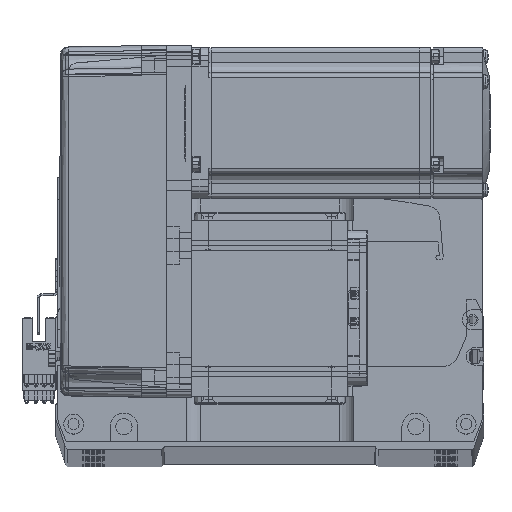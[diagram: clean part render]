
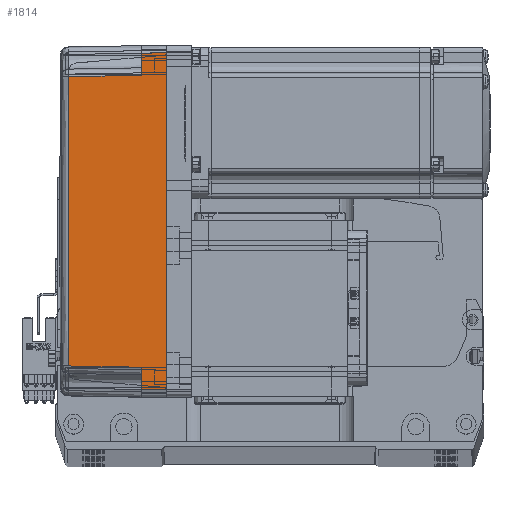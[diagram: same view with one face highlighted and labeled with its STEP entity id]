
A CAD part, top view. The second image highlights one B-rep face of the part: STEP entity #1814.
In plain terms, the highlighted planar face has unit normal (-0.018, 0, 1) as drawn and (0, 1, 0.017) by its records, which use the part's own axes.
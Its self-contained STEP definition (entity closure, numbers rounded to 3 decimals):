
#188 = EDGE_CURVE ( 'NONE', #10335, #44678, #39410, .T. ) ;
#1607 = LINE ( 'NONE', #45293, #15141 ) ;
#1814 = ADVANCED_FACE ( 'NONE', ( #69866 ), #28240, .T. ) ;
#3928 = CARTESIAN_POINT ( 'NONE',  ( -19.165, 35.316, 39.181 ) ) ;
#7227 = ORIENTED_EDGE ( 'NONE', *, *, #19741, .T. ) ;
#8753 = CARTESIAN_POINT ( 'NONE',  ( -57.495, 35.32, 38.985 ) ) ;
#9487 = VERTEX_POINT ( 'NONE', #20927 ) ;
#10335 = VERTEX_POINT ( 'NONE', #39844 ) ;
#14997 = VERTEX_POINT ( 'NONE', #56291 ) ;
#15141 = VECTOR ( 'NONE', #45546, 1000. ) ;
#16450 = LINE ( 'NONE', #38453, #37150 ) ;
#16978 = CARTESIAN_POINT ( 'NONE',  ( 70., 36., 0. ) ) ;
#17507 = DIRECTION ( 'NONE',  ( 0.017, -0.017, 1. ) ) ;
#18049 = CARTESIAN_POINT ( 'NONE',  ( -66.826, 35.825, 10. ) ) ;
#18368 = VECTOR ( 'NONE', #56971, 1000. ) ;
#19364 = EDGE_CURVE ( 'NONE', #73491, #9487, #42670, .T. ) ;
#19741 = EDGE_CURVE ( 'NONE', #55953, #14997, #61963, .T. ) ;
#20433 = EDGE_CURVE ( 'NONE', #48076, #27278, #56063, .T. ) ;
#20663 = CARTESIAN_POINT ( 'NONE',  ( 57.495, 35.32, 38.985 ) ) ;
#20927 = CARTESIAN_POINT ( 'NONE',  ( -58., 35.825, 10. ) ) ;
#21556 = ORIENTED_EDGE ( 'NONE', *, *, #188, .T. ) ;
#22585 = CARTESIAN_POINT ( 'NONE',  ( 66.826, 35.825, 10. ) ) ;
#22630 = DIRECTION ( 'NONE',  ( 1., 0., 0. ) ) ;
#24776 = VECTOR ( 'NONE', #45142, 1000. ) ;
#26079 = EDGE_CURVE ( 'NONE', #14997, #10335, #16450, .T. ) ;
#26132 = CARTESIAN_POINT ( 'NONE',  ( 19.165, 35.316, 39.181 ) ) ;
#26601 = LINE ( 'NONE', #27954, #24776 ) ;
#27278 = VERTEX_POINT ( 'NONE', #70036 ) ;
#27954 = CARTESIAN_POINT ( 'NONE',  ( 67.001, 36.001, -0.052 ) ) ;
#28240 = PLANE ( 'NONE',  #31507 ) ;
#31507 = AXIS2_PLACEMENT_3D ( 'NONE', #16978, #57275, #68892 ) ;
#32727 = EDGE_CURVE ( 'NONE', #27278, #44678, #26601, .T. ) ;
#34770 = ORIENTED_EDGE ( 'NONE', *, *, #20433, .F. ) ;
#37150 = VECTOR ( 'NONE', #73035, 1000. ) ;
#38289 = EDGE_LOOP ( 'NONE', ( #44382, #38369, #65140, #7227, #68262, #21556, #45176, #34770 ) ) ;
#38369 = ORIENTED_EDGE ( 'NONE', *, *, #19364, .T. ) ;
#38453 = CARTESIAN_POINT ( 'NONE',  ( 57.495, 35.32, 38.985 ) ) ;
#39410 = LINE ( 'NONE', #50304, #55583 ) ;
#39844 = CARTESIAN_POINT ( 'NONE',  ( 58., 35.825, 10. ) ) ;
#40071 = CARTESIAN_POINT ( 'NONE',  ( 70., 35.825, 10. ) ) ;
#40391 = CARTESIAN_POINT ( 'NONE',  ( -67., 36., 0. ) ) ;
#42670 = LINE ( 'NONE', #40071, #18368 ) ;
#44382 = ORIENTED_EDGE ( 'NONE', *, *, #52786, .T. ) ;
#44678 = VERTEX_POINT ( 'NONE', #22585 ) ;
#45142 = DIRECTION ( 'NONE',  ( -0.017, -0.017, 1. ) ) ;
#45176 = ORIENTED_EDGE ( 'NONE', *, *, #32727, .F. ) ;
#45293 = CARTESIAN_POINT ( 'NONE',  ( -58., 35.825, 10. ) ) ;
#45546 = DIRECTION ( 'NONE',  ( 0.017, -0.017, 1. ) ) ;
#45681 = LINE ( 'NONE', #40391, #52866 ) ;
#48076 = VERTEX_POINT ( 'NONE', #65932 ) ;
#50304 = CARTESIAN_POINT ( 'NONE',  ( 70., 35.825, 10. ) ) ;
#52786 = EDGE_CURVE ( 'NONE', #48076, #73491, #45681, .T. ) ;
#52866 = VECTOR ( 'NONE', #17507, 1000. ) ;
#55583 = VECTOR ( 'NONE', #56347, 1000. ) ;
#55953 = VERTEX_POINT ( 'NONE', #74483 ) ;
#56063 = LINE ( 'NONE', #56714, #69604 ) ;
#56291 = CARTESIAN_POINT ( 'NONE',  ( 57.495, 35.32, 38.985 ) ) ;
#56347 = DIRECTION ( 'NONE',  ( 1., 0., 0. ) ) ;
#56714 = CARTESIAN_POINT ( 'NONE',  ( 0., 36., 0. ) ) ;
#56971 = DIRECTION ( 'NONE',  ( 1., 0., 0. ) ) ;
#57275 = DIRECTION ( 'NONE',  ( 0., 1., 0.017 ) ) ;
#61885 = EDGE_CURVE ( 'NONE', #9487, #55953, #1607, .T. ) ;
#61963 = B_SPLINE_CURVE_WITH_KNOTS ( 'NONE', 3,
 ( #8753, #3928, #26132, #20663 ),
 .UNSPECIFIED., .F., .F.,
 ( 4, 4 ),
 ( 0., 1. ),
 .UNSPECIFIED. ) ;
#65140 = ORIENTED_EDGE ( 'NONE', *, *, #61885, .T. ) ;
#65932 = CARTESIAN_POINT ( 'NONE',  ( -67., 36., 0. ) ) ;
#68262 = ORIENTED_EDGE ( 'NONE', *, *, #26079, .T. ) ;
#68892 = DIRECTION ( 'NONE',  ( 0., -0.017, 1. ) ) ;
#69604 = VECTOR ( 'NONE', #22630, 1000. ) ;
#69866 = FACE_OUTER_BOUND ( 'NONE', #38289, .T. ) ;
#70036 = CARTESIAN_POINT ( 'NONE',  ( 67., 36., 0. ) ) ;
#73035 = DIRECTION ( 'NONE',  ( 0.017, 0.017, -1. ) ) ;
#73491 = VERTEX_POINT ( 'NONE', #18049 ) ;
#74483 = CARTESIAN_POINT ( 'NONE',  ( -57.495, 35.32, 38.985 ) ) ;
